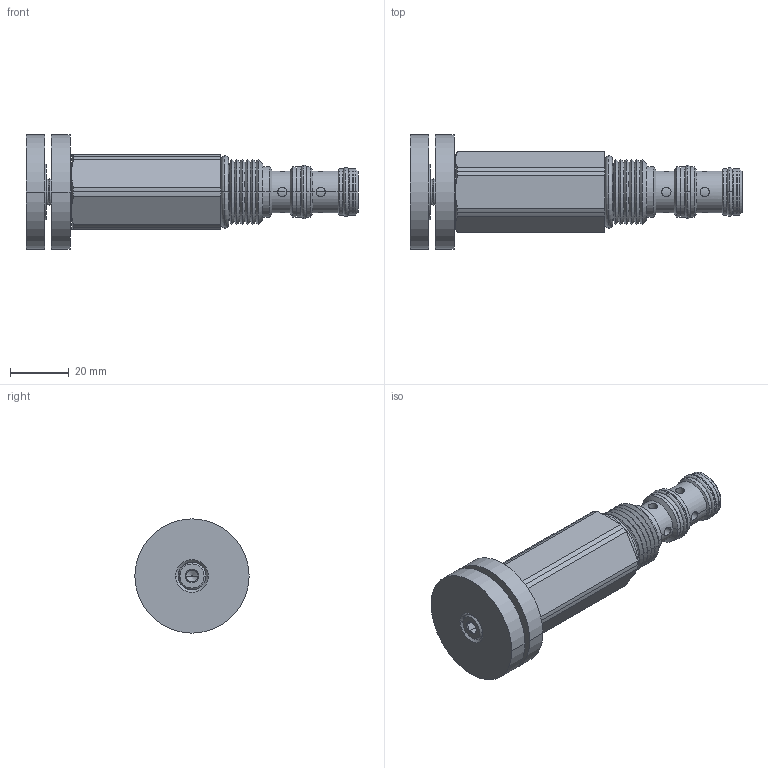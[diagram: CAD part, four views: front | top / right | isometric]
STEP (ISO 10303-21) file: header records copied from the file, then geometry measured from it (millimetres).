
FILE_DESCRIPTION((''),'2;1');
FILE_NAME('U:\Solid model CD\Solid model full\Mechanical\STEP\DFPWP0K-3D Full.stp','2008-07-29T09:24:06',('Dan'),(''),'Autodesk Inventor 9','Autodesk Inventor 9','');
FILE_SCHEMA(('AUTOMOTIVE_DESIGN { 1 0 10303 214 1 1 1 1 }'));
Length unit declared in the file: inch
Products named in the file (9): DFPWP0K-3D Full; DFPWP0K-3D Full1; DFPWP0K-3D Full2; DFPWP0K-3D Full3; DFPWP0K-3D Full4; DFPWP0K-3D Full5; DFPWP0K-3D Full6; DFPWP0K-3D Full7; DFPWP0K-3D Full8
Assembly tree (8 placements, depth 2):
  DFPWP0K-3D Full
    DFPWP0K-3D Full1
    DFPWP0K-3D Full2
    DFPWP0K-3D Full3
    DFPWP0K-3D Full4
    DFPWP0K-3D Full5
    DFPWP0K-3D Full6
    DFPWP0K-3D Full7
    DFPWP0K-3D Full8
Bounding box: 112.98 x 38.86 x 38.86 mm (x, y, z)
Volume: 54197.6 mm3; surface area: 17501.6 mm2
Topology: 8 solids, 8 shells, 262 faces, 569 edges, 333 vertices
Faces by surface type: cone 122, cylinder 78, plane 38, bspline 20, torus 4
Entity records: 8193 total; most frequent: CARTESIAN_POINT 2329, DIRECTION 1259, ORIENTED_EDGE 1138, EDGE_CURVE 569, AXIS2_PLACEMENT_3D 523, VERTEX_POINT 333, EDGE_LOOP 286, CIRCLE 264
